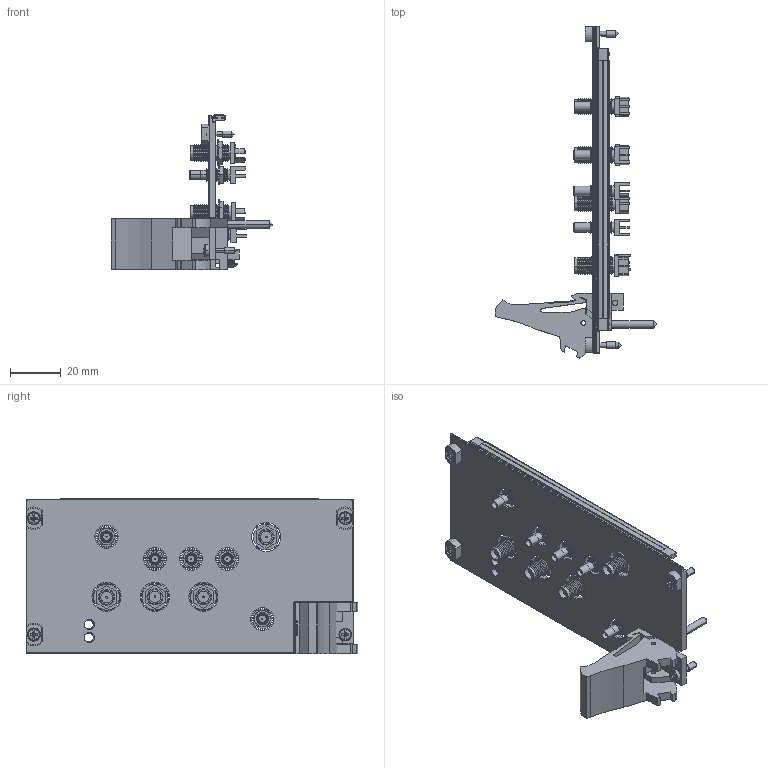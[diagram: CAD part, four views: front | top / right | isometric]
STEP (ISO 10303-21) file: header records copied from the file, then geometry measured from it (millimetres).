
FILE_DESCRIPTION((''),'2;1');
FILE_NAME('CU_PXIE-5654','2015-03-04T',('jjorden'),(''),'PRO/ENGINEER BY PARAMETRIC TECHNOLOGY CORPORATION, 2014000','PRO/ENGINEER BY PARAMETRIC TECHNOLOGY CORPORATION, 2014000','');
FILE_SCHEMA(('CONFIG_CONTROL_DESIGN'));
Length unit declared in the file: inch
Products named in the file (1): CU_PXIE-5654
Bounding box: 63.53 x 130.41 x 60.95 mm (x, y, z)
Volume: 33020.9 mm3; surface area: 35265.4 mm2
Topology: 29 solids, 29 shells, 2712 faces, 7217 edges, 4582 vertices
Faces by surface type: plane 1075, cone 828, cylinder 746, bspline 24, torus 24, sphere 12, extrusion 3
Entity records: 102640 total; most frequent: CARTESIAN_POINT 34759, ORIENTED_EDGE 14406, DIRECTION 14039, EDGE_CURVE 7203, AXIS2_PLACEMENT_3D 5018, VERTEX_POINT 4582, VECTOR 4003, LINE 4000
